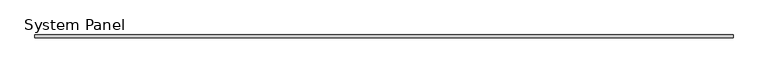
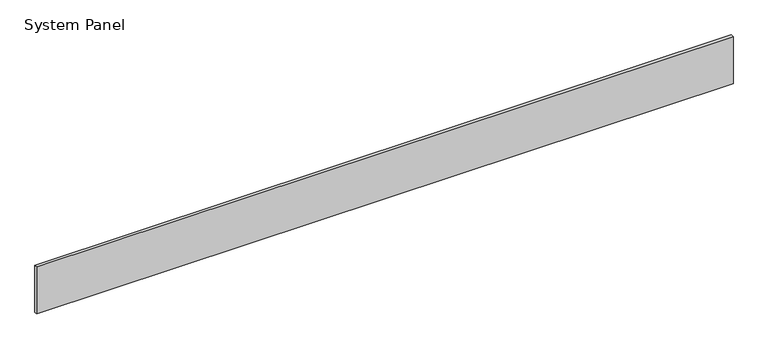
"""IFC4 building model written with IfcOpenShell, lengths in millimetres: plate geometry, System Panel : MetecnoSpan_60mm_Horizontal_Plain_Surfmist."""

from ifc_helpers import new_model, si_unit, origin, origin_with_axes, place, context, project, spatial, polyline, outline, extrude, source, transform, mapped, element, save


def system_panel_568c220c(model_context):
    return source(origin(), model_context, "Body", "SweptSolid", [
        extrude(outline(polyline([(7000.0, -60.0), (-7000.0, -60.0), (-7000.0, 0.0), (7000.0, 0.0), (7000.0, -60.0)])), origin_with_axes(), (0.0, 0.0, 1.0), 1000.0),
    ])


if __name__ == "__main__":
    model = new_model("IFC4")
    model_context = context("Model", 3, world=origin())
    ifc_project = project(units=[si_unit("LENGTHUNIT", "METRE", prefix="MILLI")], contexts=[model_context])
    site = spatial("IfcSite", under=ifc_project)
    building = spatial("IfcBuilding", under=site)
    placement = place(None, origin())
    system_panel_shape = system_panel_568c220c(model_context)
    element("IfcPlate", 1, ObjectType="System Panel : MetecnoSpan_60mm_Horizontal_Plain_Surfmist", at=placement, inside=building, context=model_context, shape_type="MappedRepresentation", body=[
        mapped(system_panel_shape, transform((0.0, 0.0, 0.0), x_axis=(1.0, 0.0, 0.0), y_axis=(0.0, 1.0, 0.0), z_axis=(0.0, 0.0, 1.0))),
    ])
    save(model, "model.ifc")
